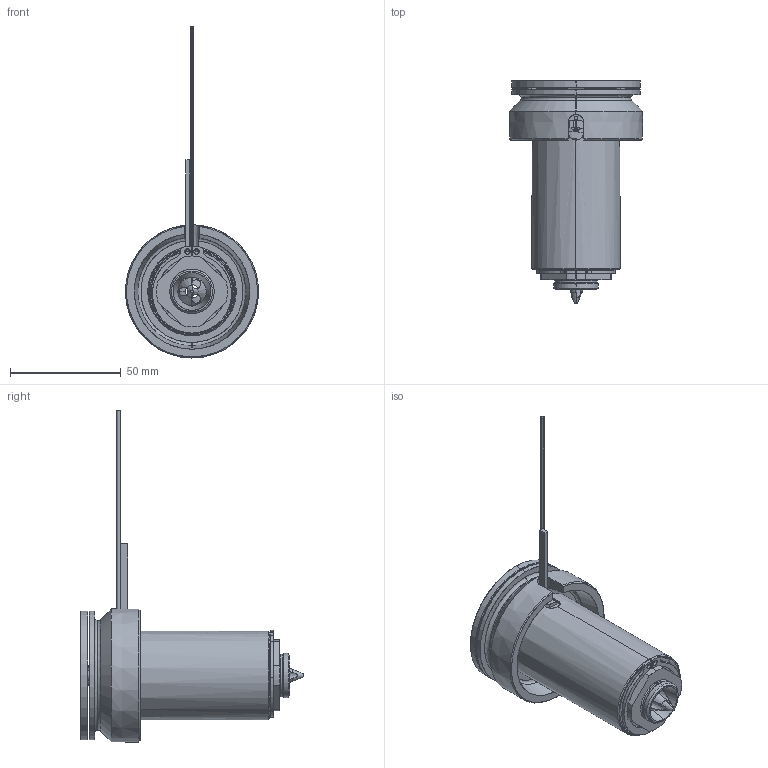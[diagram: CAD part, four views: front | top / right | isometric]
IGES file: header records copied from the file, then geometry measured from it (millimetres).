
Start section: SolidWorks IGES file using analytic representation for surfaces
Global section: file name: C:\Documents and Settings\ws-20\Desktop\TEM\UGEP6003-S-A-0 [Øf-1.3 ØC-16].IGS; native system: SolidWorks 2012; preprocessor: SolidWorks 2012; author: ws-20; date: 120427.093811; units: millimetre
Bounding box: 60 x 100.8 x 149.65 mm (x, y, z)
Surface area: 47205.4 mm2 (no closed solid volume)
Topology: 0 solids, 0 shells, 136 faces, 2739 edges, 2739 vertices
Faces by surface type: revolution 89, bspline 47
